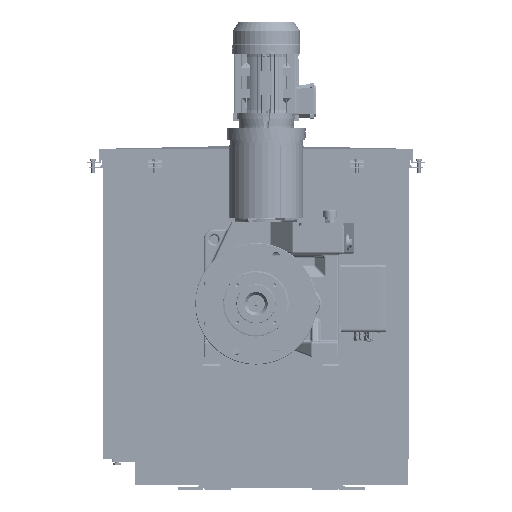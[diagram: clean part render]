
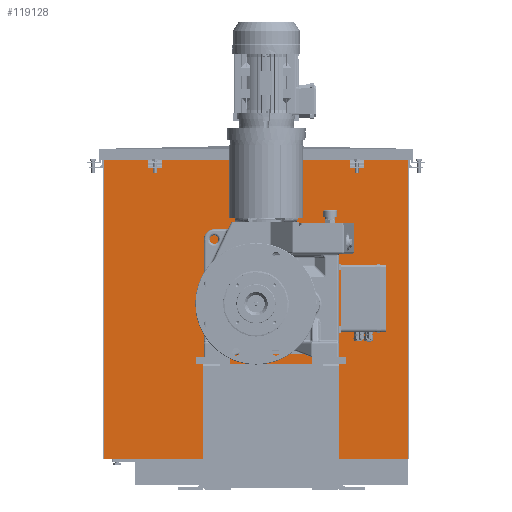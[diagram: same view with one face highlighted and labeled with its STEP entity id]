
A CAD part, front view. The second image highlights one B-rep face of the part: STEP entity #119128.
In plain terms, the highlighted planar face has unit normal (0, -1, 0).
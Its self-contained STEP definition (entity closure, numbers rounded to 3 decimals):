
#12074=LINE('',#211030,#21709);
#12091=LINE('',#211075,#21726);
#12093=LINE('',#211079,#21728);
#12094=LINE('',#211081,#21729);
#12095=LINE('',#211090,#21730);
#12112=LINE('',#211135,#21747);
#12114=LINE('',#211139,#21749);
#12115=LINE('',#211141,#21750);
#12234=LINE('',#211587,#21869);
#12244=LINE('',#211609,#21879);
#12248=LINE('',#211617,#21883);
#12249=LINE('',#211618,#21884);
#21709=VECTOR('',#157813,40.);
#21726=VECTOR('',#157856,40.);
#21728=VECTOR('',#157860,40.);
#21729=VECTOR('',#157863,40.);
#21730=VECTOR('',#157872,40.);
#21747=VECTOR('',#157915,40.);
#21749=VECTOR('',#157919,40.);
#21750=VECTOR('',#157922,40.);
#21869=VECTOR('',#158377,891.);
#21879=VECTOR('',#158401,894.);
#21883=VECTOR('',#158407,894.);
#21884=VECTOR('',#158408,891.);
#26359=PLANE('',#129120);
#29189=FACE_BOUND('',#43223,.T.);
#29190=FACE_BOUND('',#43224,.T.);
#29191=FACE_BOUND('',#43225,.T.);
#29192=FACE_BOUND('',#43226,.T.);
#29193=FACE_BOUND('',#43227,.T.);
#29194=FACE_BOUND('',#43228,.T.);
#29195=FACE_BOUND('',#43229,.T.);
#29196=FACE_BOUND('',#43230,.T.);
#29197=FACE_BOUND('',#43231,.T.);
#29198=FACE_BOUND('',#43232,.T.);
#29199=FACE_BOUND('',#43233,.T.);
#35480=FACE_OUTER_BOUND('',#43222,.T.);
#43222=EDGE_LOOP('',(#105122,#105123,#105124,#105125));
#43223=EDGE_LOOP('',(#105126,#105127,#105128,#105129));
#43224=EDGE_LOOP('',(#105130,#105131,#105132,#105133));
#43225=EDGE_LOOP('',(#105134));
#43226=EDGE_LOOP('',(#105135));
#43227=EDGE_LOOP('',(#105136));
#43228=EDGE_LOOP('',(#105137));
#43229=EDGE_LOOP('',(#105138));
#43230=EDGE_LOOP('',(#105139));
#43231=EDGE_LOOP('',(#105140));
#43232=EDGE_LOOP('',(#105141));
#43233=EDGE_LOOP('',(#105142));
#47192=CIRCLE('',#129086,7.);
#47194=CIRCLE('',#129089,7.);
#47196=CIRCLE('',#129092,7.);
#47198=CIRCLE('',#129095,7.);
#47200=CIRCLE('',#129098,7.);
#47202=CIRCLE('',#129101,7.);
#47204=CIRCLE('',#129104,7.);
#47206=CIRCLE('',#129107,7.);
#47208=CIRCLE('',#129110,60.);
#57427=VERTEX_POINT('',#211028);
#57428=VERTEX_POINT('',#211029);
#57443=VERTEX_POINT('',#211073);
#57444=VERTEX_POINT('',#211077);
#57447=VERTEX_POINT('',#211088);
#57448=VERTEX_POINT('',#211089);
#57463=VERTEX_POINT('',#211133);
#57464=VERTEX_POINT('',#211137);
#57603=VERTEX_POINT('',#211534);
#57605=VERTEX_POINT('',#211540);
#57607=VERTEX_POINT('',#211545);
#57609=VERTEX_POINT('',#211550);
#57611=VERTEX_POINT('',#211555);
#57613=VERTEX_POINT('',#211560);
#57615=VERTEX_POINT('',#211565);
#57617=VERTEX_POINT('',#211570);
#57619=VERTEX_POINT('',#211575);
#57621=VERTEX_POINT('',#211580);
#57623=VERTEX_POINT('',#211586);
#57628=VERTEX_POINT('',#211608);
#57631=VERTEX_POINT('',#211616);
#73260=EDGE_CURVE('',#57427,#57428,#12074,.T.);
#73283=EDGE_CURVE('',#57428,#57443,#12091,.T.);
#73285=EDGE_CURVE('',#57444,#57427,#12093,.T.);
#73286=EDGE_CURVE('',#57443,#57444,#12094,.T.);
#73289=EDGE_CURVE('',#57447,#57448,#12095,.T.);
#73312=EDGE_CURVE('',#57448,#57463,#12112,.T.);
#73314=EDGE_CURVE('',#57464,#57447,#12114,.T.);
#73315=EDGE_CURVE('',#57463,#57464,#12115,.T.);
#73498=EDGE_CURVE('',#57605,#57605,#47192,.T.);
#73500=EDGE_CURVE('',#57607,#57607,#47194,.T.);
#73502=EDGE_CURVE('',#57609,#57609,#47196,.T.);
#73504=EDGE_CURVE('',#57611,#57611,#47198,.T.);
#73506=EDGE_CURVE('',#57613,#57613,#47200,.T.);
#73508=EDGE_CURVE('',#57615,#57615,#47202,.T.);
#73510=EDGE_CURVE('',#57617,#57617,#47204,.T.);
#73512=EDGE_CURVE('',#57619,#57619,#47206,.T.);
#73514=EDGE_CURVE('',#57621,#57621,#47208,.T.);
#73517=EDGE_CURVE('',#57623,#57603,#12234,.T.);
#73530=EDGE_CURVE('',#57628,#57623,#12244,.T.);
#73534=EDGE_CURVE('',#57603,#57631,#12248,.T.);
#73535=EDGE_CURVE('',#57631,#57628,#12249,.T.);
#105122=ORIENTED_EDGE('',*,*,#73517,.T.);
#105123=ORIENTED_EDGE('',*,*,#73534,.T.);
#105124=ORIENTED_EDGE('',*,*,#73535,.T.);
#105125=ORIENTED_EDGE('',*,*,#73530,.T.);
#105126=ORIENTED_EDGE('',*,*,#73260,.T.);
#105127=ORIENTED_EDGE('',*,*,#73283,.T.);
#105128=ORIENTED_EDGE('',*,*,#73286,.T.);
#105129=ORIENTED_EDGE('',*,*,#73285,.T.);
#105130=ORIENTED_EDGE('',*,*,#73289,.T.);
#105131=ORIENTED_EDGE('',*,*,#73312,.T.);
#105132=ORIENTED_EDGE('',*,*,#73315,.T.);
#105133=ORIENTED_EDGE('',*,*,#73314,.T.);
#105134=ORIENTED_EDGE('',*,*,#73498,.T.);
#105135=ORIENTED_EDGE('',*,*,#73500,.T.);
#105136=ORIENTED_EDGE('',*,*,#73502,.T.);
#105137=ORIENTED_EDGE('',*,*,#73504,.T.);
#105138=ORIENTED_EDGE('',*,*,#73506,.T.);
#105139=ORIENTED_EDGE('',*,*,#73508,.T.);
#105140=ORIENTED_EDGE('',*,*,#73510,.T.);
#105141=ORIENTED_EDGE('',*,*,#73512,.T.);
#105142=ORIENTED_EDGE('',*,*,#73514,.T.);
#119128=ADVANCED_FACE('',(#35480,#29189,#29190,#29191,#29192,#29193,#29194,
#29195,#29196,#29197,#29198,#29199),#26359,.F.);
#129086=AXIS2_PLACEMENT_3D('',#211541,#158322,#158323);
#129089=AXIS2_PLACEMENT_3D('',#211546,#158328,#158329);
#129092=AXIS2_PLACEMENT_3D('',#211551,#158334,#158335);
#129095=AXIS2_PLACEMENT_3D('',#211556,#158340,#158341);
#129098=AXIS2_PLACEMENT_3D('',#211561,#158346,#158347);
#129101=AXIS2_PLACEMENT_3D('',#211566,#158352,#158353);
#129104=AXIS2_PLACEMENT_3D('',#211571,#158358,#158359);
#129107=AXIS2_PLACEMENT_3D('',#211576,#158364,#158365);
#129110=AXIS2_PLACEMENT_3D('',#211581,#158370,#158371);
#129120=AXIS2_PLACEMENT_3D('',#211615,#158405,#158406);
#157813=DIRECTION('',(0.,0.,-1.));
#157856=DIRECTION('',(-1.,0.,0.));
#157860=DIRECTION('',(1.,0.,0.));
#157863=DIRECTION('',(0.,0.,1.));
#157872=DIRECTION('',(0.,0.,-1.));
#157915=DIRECTION('',(-1.,0.,0.));
#157919=DIRECTION('',(1.,0.,0.));
#157922=DIRECTION('',(0.,0.,1.));
#158322=DIRECTION('center_axis',(0.,1.,0.));
#158323=DIRECTION('ref_axis',(-1.,0.,0.));
#158328=DIRECTION('center_axis',(0.,1.,0.));
#158329=DIRECTION('ref_axis',(-1.,0.,0.));
#158334=DIRECTION('center_axis',(0.,1.,0.));
#158335=DIRECTION('ref_axis',(-1.,0.,0.));
#158340=DIRECTION('center_axis',(0.,1.,0.));
#158341=DIRECTION('ref_axis',(-1.,0.,0.));
#158346=DIRECTION('center_axis',(0.,1.,0.));
#158347=DIRECTION('ref_axis',(-1.,0.,0.));
#158352=DIRECTION('center_axis',(0.,1.,0.));
#158353=DIRECTION('ref_axis',(-1.,0.,0.));
#158358=DIRECTION('center_axis',(0.,1.,0.));
#158359=DIRECTION('ref_axis',(-1.,0.,0.));
#158364=DIRECTION('center_axis',(0.,1.,0.));
#158365=DIRECTION('ref_axis',(-1.,0.,0.));
#158370=DIRECTION('center_axis',(0.,1.,0.));
#158371=DIRECTION('ref_axis',(-1.,0.,0.));
#158377=DIRECTION('',(-1.,0.,0.));
#158401=DIRECTION('',(0.,0.,1.));
#158405=DIRECTION('center_axis',(0.,1.,0.));
#158406=DIRECTION('ref_axis',(-1.,0.,0.));
#158407=DIRECTION('',(0.,0.,-1.));
#158408=DIRECTION('',(1.,0.,0.));
#211028=CARTESIAN_POINT('',(-3149.623,-4804.995,-392.545));
#211029=CARTESIAN_POINT('',(-3149.623,-4804.995,-432.545));
#211030=CARTESIAN_POINT('',(-3149.623,-4804.995,-626.5));
#211073=CARTESIAN_POINT('',(-3189.623,-4804.995,-432.545));
#211075=CARTESIAN_POINT('',(-3317.123,-4804.995,-432.545));
#211077=CARTESIAN_POINT('',(-3189.623,-4804.995,-392.545));
#211079=CARTESIAN_POINT('',(-3317.123,-4804.995,-392.545));
#211081=CARTESIAN_POINT('',(-3189.623,-4804.995,-626.5));
#211088=CARTESIAN_POINT('',(-3739.623,-4804.995,-392.545));
#211089=CARTESIAN_POINT('',(-3739.623,-4804.995,-432.545));
#211090=CARTESIAN_POINT('',(-3739.623,-4804.995,-626.5));
#211133=CARTESIAN_POINT('',(-3779.623,-4804.995,-432.545));
#211135=CARTESIAN_POINT('',(-3612.123,-4804.995,-432.545));
#211137=CARTESIAN_POINT('',(-3779.623,-4804.995,-392.545));
#211139=CARTESIAN_POINT('',(-3612.123,-4804.995,-392.545));
#211141=CARTESIAN_POINT('',(-3779.623,-4804.995,-626.5));
#211534=CARTESIAN_POINT('',(-3910.123,-4804.995,-388.829));
#211540=CARTESIAN_POINT('',(-3571.923,-4804.995,-829.829));
#211541=CARTESIAN_POINT('Origin',(-3578.923,-4804.995,-829.829));
#211545=CARTESIAN_POINT('',(-3457.623,-4804.995,-944.129));
#211546=CARTESIAN_POINT('Origin',(-3464.623,-4804.995,-944.129));
#211550=CARTESIAN_POINT('',(-3343.323,-4804.995,-829.829));
#211551=CARTESIAN_POINT('Origin',(-3350.323,-4804.995,-829.829));
#211555=CARTESIAN_POINT('',(-3457.623,-4804.995,-715.529));
#211556=CARTESIAN_POINT('Origin',(-3464.623,-4804.995,-715.529));
#211560=CARTESIAN_POINT('',(-3376.8,-4804.995,-749.006));
#211561=CARTESIAN_POINT('Origin',(-3383.8,-4804.995,-749.006));
#211565=CARTESIAN_POINT('',(-3376.8,-4804.995,-910.651));
#211566=CARTESIAN_POINT('Origin',(-3383.8,-4804.995,-910.651));
#211570=CARTESIAN_POINT('',(-3538.445,-4804.995,-910.651));
#211571=CARTESIAN_POINT('Origin',(-3545.445,-4804.995,-910.651));
#211575=CARTESIAN_POINT('',(-3538.445,-4804.995,-749.006));
#211576=CARTESIAN_POINT('Origin',(-3545.445,-4804.995,-749.006));
#211580=CARTESIAN_POINT('',(-3404.623,-4804.995,-829.829));
#211581=CARTESIAN_POINT('Origin',(-3464.623,-4804.995,-829.829));
#211586=CARTESIAN_POINT('',(-3019.123,-4804.995,-388.829));
#211587=CARTESIAN_POINT('',(-3241.873,-4804.995,-388.829));
#211608=CARTESIAN_POINT('',(-3019.123,-4804.995,-1282.829));
#211609=CARTESIAN_POINT('',(-3019.123,-4804.995,-1277.829));
#211615=CARTESIAN_POINT('Origin',(-3464.623,-4804.995,-832.329));
#211616=CARTESIAN_POINT('',(-3910.123,-4804.995,-1282.829));
#211617=CARTESIAN_POINT('',(-3910.123,-4804.995,-386.829));
#211618=CARTESIAN_POINT('',(-3910.123,-4804.995,-1282.829));
